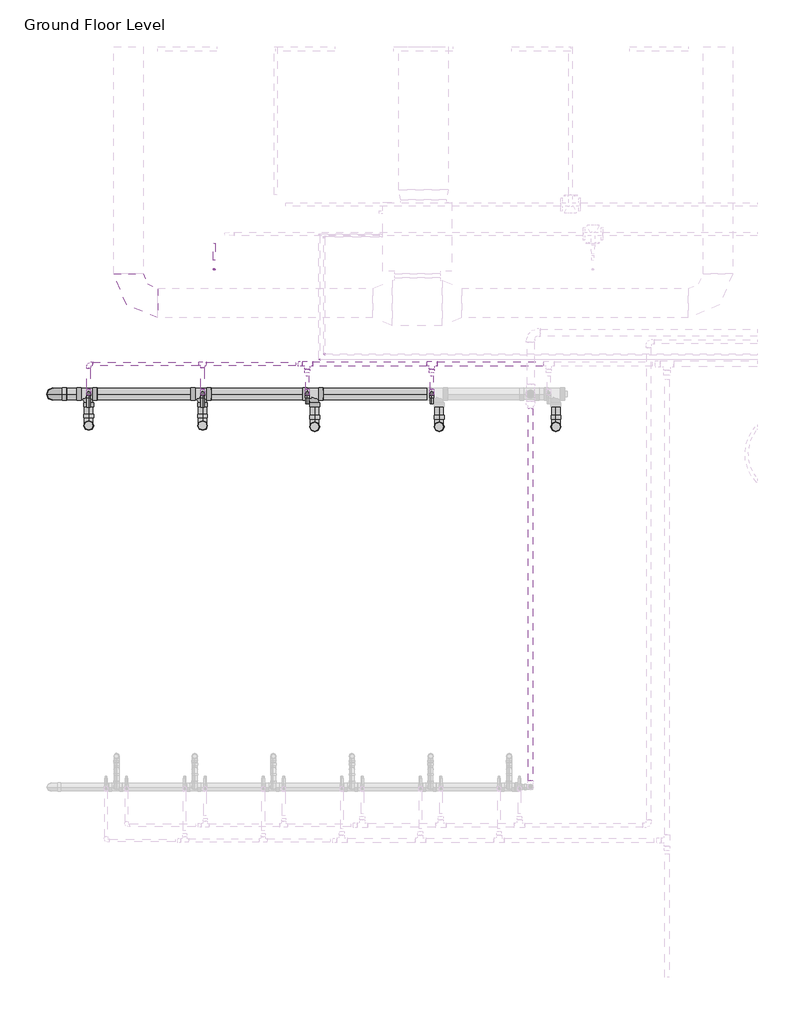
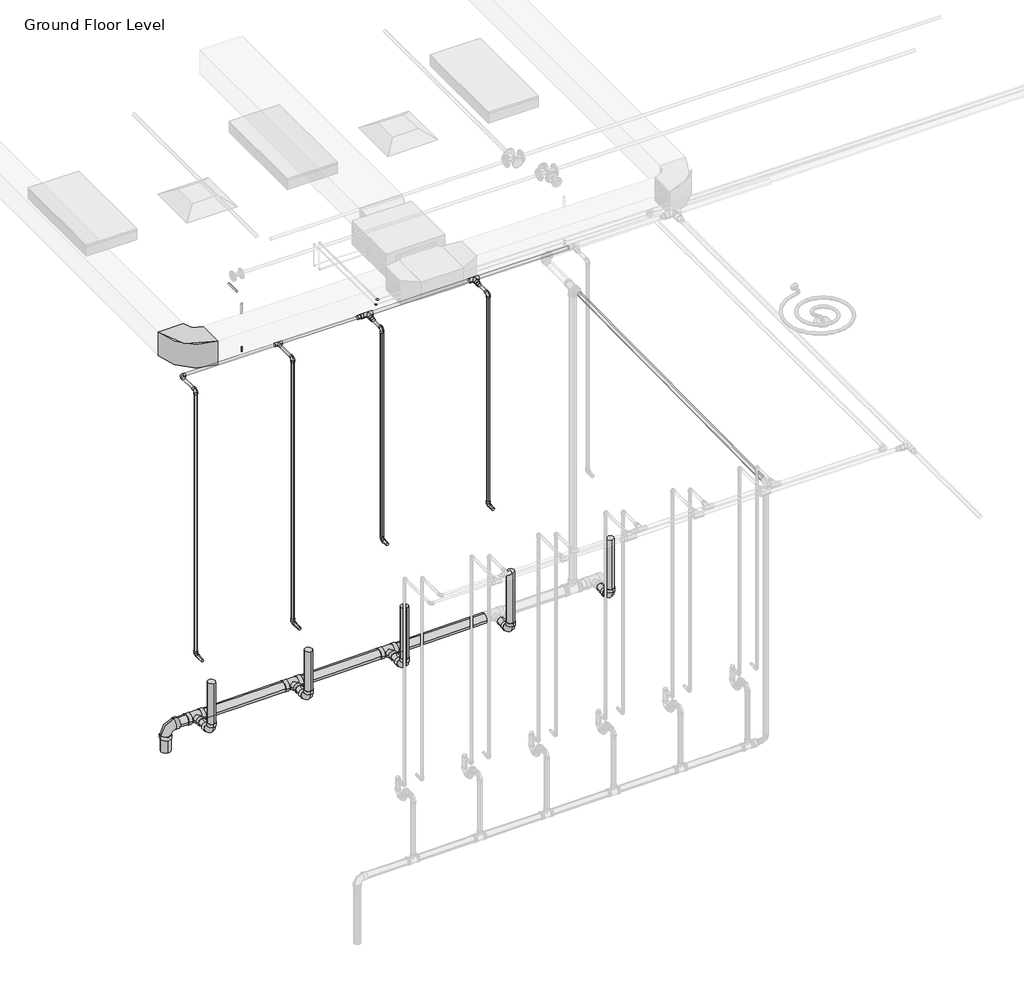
# One storey, part 43 of 75: 34 pipe segments, 26 pipe fittings, 1 duct fitting, 1 fire suppression terminal.
"""IFC4 building model written with IfcOpenShell, lengths in millimetres."""

from ifc_helpers import new_model, si_unit, point, frame, frame_2d, origin, place, context, project, spatial, circle_curve, trimmed, segment, composite_curve, outline, extrude, transform, mapped, element, save
from components import m_rectangular_elbow_radius_1_w_618da153, m_sprinkler_pendent_15_mm_pendent_06fcbd8e, m_bend_pvc_sch_40_dwv_standard_a4b99d37, m_bend_pvc_sch_40_dwv_standard_b7b4a97e, m_elbow_generic_standard_a088f956, m_elbow_generic_standard_2a704253, m_tee_reducing_sanitary_pvc_sch_40_dwv_standard_b49161a9, standard_517a5a8d, standard_ecb2b93d, standard_28db8dab, standard_72b35c3b, standard_08ff6011, standard_d0d0b892

model = new_model("IFC4")

# Units and contexts
model_context = context("Model", 3, world=origin())
ifc_project = project(units=[si_unit("LENGTHUNIT", "METRE", prefix="MILLI")], contexts=[model_context])

# Site, building, storey
site = spatial("IfcSite", under=ifc_project)
building = spatial("IfcBuilding", under=site)
storey = spatial("IfcBuildingStorey", under=building, Name="Ground Floor Level", Elevation=900.0)

# Duct fitting
placement = place(None, origin())
m_rectangular_elbow_radius_1_w_shape = m_rectangular_elbow_radius_1_w_618da153(model_context)
element("IfcDuctFitting", 1, ObjectType="M_Rectangular Elbow - Radius : 1 W", at=placement, inside=storey, context=model_context, shape_type="MappedRepresentation", body=[
    mapped(m_rectangular_elbow_radius_1_w_shape, transform((-20937.2327605, 14069.8153534, 4075.2881511), x_axis=(0.0, -1.0, 0.0), y_axis=(1.0, 0.0, 0.0), z_axis=(0.0, 0.0, 1.0))),
])

# Fire suppression terminal
m_sprinkler_pendent_15_mm_pendent_shape = m_sprinkler_pendent_15_mm_pendent_06fcbd8e(model_context)
element("IfcFireSuppressionTerminal", 2, ObjectType="M_Sprinkler - Pendent : 15 mm Pendent", at=placement, inside=storey, context=model_context, shape_type="MappedRepresentation", body=[
    mapped(m_sprinkler_pendent_15_mm_pendent_shape, transform((-20063.6803933, 14412.7243649, 3650.0), x_axis=(1.0, 0.0, 0.0), y_axis=(0.0, 1.0, 0.0), z_axis=(0.0, 0.0, 1.0))),
])

# Pipe fittings
m_bend_pvc_sch_40_dwv_standard_shape = m_bend_pvc_sch_40_dwv_standard_a4b99d37(model_context)
element("IfcPipeFitting", 3, ObjectType="M_Bend - PVC - Sch 40 - DWV : Standard", at=placement, inside=storey, context=model_context, shape_type="MappedRepresentation", body=[
    mapped(m_bend_pvc_sch_40_dwv_standard_shape, transform((-21343.0428538, 12823.8178806, 203.6352174), x_axis=(0.0, 0.0, -1.0), y_axis=(0.0, 1.0, 0.0), z_axis=(1.0, 0.0, 0.0))),
])
element("IfcPipeFitting", 4, ObjectType="M_Bend - PVC - Sch 40 - DWV : Standard", at=placement, inside=storey, context=model_context, shape_type="MappedRepresentation", body=[
    mapped(m_bend_pvc_sch_40_dwv_standard_shape, transform((-20183.0428538, 12823.8178806, 215.2352174), x_axis=(0.0, 0.0, -1.0), y_axis=(0.0, 1.0, 0.0), z_axis=(1.0, 0.0, 0.0))),
])
element("IfcPipeFitting", 5, ObjectType="M_Bend - PVC - Sch 40 - DWV : Standard", at=placement, inside=storey, context=model_context, shape_type="MappedRepresentation", body=[
    mapped(m_bend_pvc_sch_40_dwv_standard_shape, transform((-19043.0428538, 12811.6726561, 226.6352174), x_axis=(0.0, 0.0, -1.0), y_axis=(0.0, 1.0, 0.0), z_axis=(1.0, 0.0, 0.0))),
])
element("IfcPipeFitting", 6, ObjectType="M_Bend - PVC - Sch 40 - DWV : Standard", at=placement, inside=storey, context=model_context, shape_type="MappedRepresentation", body=[
    mapped(m_bend_pvc_sch_40_dwv_standard_shape, transform((-17775.8329095, 12811.6726561, 239.3073168), x_axis=(0.0, 0.0, -1.0), y_axis=(0.0, 1.0, 0.0), z_axis=(1.0, 0.0, 0.0))),
])
element("IfcPipeFitting", 7, ObjectType="M_Bend - PVC - Sch 40 - DWV : Standard", at=placement, inside=storey, context=model_context, shape_type="MappedRepresentation", body=[
    mapped(m_bend_pvc_sch_40_dwv_standard_shape, transform((-16586.4202262, 12811.6726561, 251.2014437), x_axis=(0.0, 0.0, -1.0), y_axis=(0.0, 1.0, 0.0), z_axis=(1.0, 0.0, 0.0))),
])
m_bend_pvc_sch_40_dwv_standard_2_shape = m_bend_pvc_sch_40_dwv_standard_b7b4a97e(model_context)
element("IfcPipeFitting", 8, ObjectType="M_Bend - PVC - Sch 40 - DWV : Standard", at=placement, inside=storey, context=model_context, shape_type="MappedRepresentation", body=[
    mapped(m_bend_pvc_sch_40_dwv_standard_2_shape, transform((-21707.2327605, 13143.7240477, 200.1933183), x_axis=(0.0, 0.0, 1.0), y_axis=(1.0, 0.0, 0.0), z_axis=(0.0, 1.0, 0.0))),
])
m_elbow_generic_standard_shape = m_elbow_generic_standard_a088f956(model_context)
element("IfcPipeFitting", 9, ObjectType="M_Elbow - Generic : Standard", at=placement, inside=storey, context=model_context, shape_type="MappedRepresentation", body=[
    mapped(m_elbow_generic_standard_shape, transform((-18945.3327605, 13545.2153534, 4380.0), x_axis=(0.0, -1.0, 0.0), y_axis=(1.0, 0.0, 0.0), z_axis=(0.0, 0.0, 1.0))),
])
m_elbow_generic_standard_2_shape = m_elbow_generic_standard_2a704253(model_context)
element("IfcPipeFitting", 10, ObjectType="M_Elbow - Generic : Standard", at=placement, inside=storey, context=model_context, shape_type="MappedRepresentation", body=[
    mapped(m_elbow_generic_standard_2_shape, transform((-18995.0192947, 13494.0185138, 4365.0), x_axis=(0.0, -1.0, 0.0), y_axis=(1.0, 0.0, 0.0), z_axis=(0.0, 0.0, 1.0))),
])
m_tee_reducing_sanitary_pvc_sch_40_dwv_standard_shape = m_tee_reducing_sanitary_pvc_sch_40_dwv_standard_b49161a9(model_context)
element("IfcPipeFitting", 11, ObjectType="M_Tee Reducing Sanitary - PVC - Sch 40 - DWV : Standard", at=placement, inside=storey, context=model_context, shape_type="MappedRepresentation", body=[
    mapped(m_tee_reducing_sanitary_pvc_sch_40_dwv_standard_shape, transform((-21343.0428538, 13143.7240477, 203.6352174), x_axis=(0.9999500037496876, 0.0, 0.009999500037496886), y_axis=(0.0, 1.0, 0.0), z_axis=(-0.009999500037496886, 0.0, 0.9999500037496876))),
])
element("IfcPipeFitting", 12, ObjectType="M_Tee Reducing Sanitary - PVC - Sch 40 - DWV : Standard", at=placement, inside=storey, context=model_context, shape_type="MappedRepresentation", body=[
    mapped(m_tee_reducing_sanitary_pvc_sch_40_dwv_standard_shape, transform((-20183.0428538, 13143.7240477, 215.2352174), x_axis=(0.9999500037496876, 0.0, 0.009999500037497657), y_axis=(0.0, 1.0, 0.0), z_axis=(-0.009999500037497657, 0.0, 0.9999500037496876))),
])
element("IfcPipeFitting", 13, ObjectType="M_Tee Reducing Sanitary - PVC - Sch 40 - DWV : Standard", at=placement, inside=storey, context=model_context, shape_type="MappedRepresentation", body=[
    mapped(m_tee_reducing_sanitary_pvc_sch_40_dwv_standard_shape, transform((-19043.0428538, 13143.7240477, 226.6352174), x_axis=(0.9999500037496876, 0.0, 0.009999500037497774), y_axis=(0.0, 1.0000000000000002, 0.0), z_axis=(-0.009999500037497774, 0.0, 0.9999500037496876))),
])
standard_shape = standard_517a5a8d(model_context)
element("IfcPipeFitting", 14, ObjectType="M_Elbow - CPVC - Sch 40 : Standard", at=placement, inside=storey, context=model_context, shape_type="MappedRepresentation", body=[
    mapped(standard_shape, transform((-21343.0428538, 13149.9865561, 4315.0), x_axis=(0.0, 0.0, 1.0), y_axis=(0.0, 1.0, 0.0), z_axis=(-1.0, 0.0, 0.0))),
])
element("IfcPipeFitting", 15, ObjectType="M_Elbow - CPVC - Sch 40 : Standard", at=placement, inside=storey, context=model_context, shape_type="MappedRepresentation", body=[
    mapped(standard_shape, transform((-20183.0428538, 13149.9865561, 4315.0), x_axis=(0.0, 0.0, 1.0), y_axis=(0.0, 1.0, 0.0), z_axis=(-1.0, 0.0, 0.0))),
])
element("IfcPipeFitting", 16, ObjectType="M_Elbow - CPVC - Sch 40 : Standard", at=placement, inside=storey, context=model_context, shape_type="MappedRepresentation", body=[
    mapped(standard_shape, transform((-19116.48162, 13149.9865561, 1655.0), x_axis=(0.0, 1.0, 0.0), y_axis=(0.0, 0.0, 1.0), z_axis=(1.0, 0.0, 0.0))),
])
element("IfcPipeFitting", 17, ObjectType="M_Elbow - CPVC - Sch 40 : Standard", at=placement, inside=storey, context=model_context, shape_type="MappedRepresentation", body=[
    mapped(standard_shape, transform((-19116.48162, 13149.9865561, 4315.0), x_axis=(0.0, 0.0, 1.0), y_axis=(0.0, 1.0, 0.0), z_axis=(-1.0, 0.0, 0.0))),
])
element("IfcPipeFitting", 18, ObjectType="M_Elbow - CPVC - Sch 40 : Standard", at=placement, inside=storey, context=model_context, shape_type="MappedRepresentation", body=[
    mapped(standard_shape, transform((-17849.2716757, 13149.9865561, 4315.0), x_axis=(0.0, 0.0, 1.0), y_axis=(0.0, 1.0, 0.0), z_axis=(-1.0, 0.0, 0.0))),
])
element("IfcPipeFitting", 19, ObjectType="M_Elbow - CPVC - Sch 40 : Standard", at=placement, inside=storey, context=model_context, shape_type="MappedRepresentation", body=[
    mapped(standard_shape, transform((-17849.2716757, 13149.9865561, 1655.0), x_axis=(0.0, 0.0, -1.0), y_axis=(0.0, -1.0, 0.0), z_axis=(-1.0, 0.0, 0.0))),
])
element("IfcPipeFitting", 20, ObjectType="M_Elbow - CPVC - Sch 40 : Standard", at=placement, inside=storey, context=model_context, shape_type="MappedRepresentation", body=[
    mapped(standard_shape, transform((-21343.0428538, 13449.9865561, 4315.0), x_axis=(-1.0, 0.0, 0.0), y_axis=(0.0, -1.0, 0.0), z_axis=(0.0, 0.0, 1.0))),
])
standard_2_shape = standard_ecb2b93d(model_context)
element("IfcPipeFitting", 21, ObjectType="M_Elbow - CPVC - Sch 40 : Standard", at=placement, inside=storey, context=model_context, shape_type="MappedRepresentation", body=[
    mapped(standard_2_shape, transform((-21343.0428538, 13149.9865561, 983.5000035), x_axis=(0.0, 0.9999999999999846, 1.7577295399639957e-07), y_axis=(0.0, -1.7577295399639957e-07, 0.9999999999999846), z_axis=(1.0, 0.0, 0.0))),
])
standard_3_shape = standard_28db8dab(model_context)
element("IfcPipeFitting", 22, ObjectType="M_Elbow - CPVC - Sch 40 : Standard", at=placement, inside=storey, context=model_context, shape_type="MappedRepresentation", body=[
    mapped(standard_3_shape, transform((-20183.0428538, 13149.9865561, 983.4999984), x_axis=(0.0, 0.0, -1.0), y_axis=(0.0, -1.0, 0.0), z_axis=(-1.0, 0.0, 0.0))),
])
standard_4_shape = standard_72b35c3b(model_context)
element("IfcPipeFitting", 23, ObjectType="M_Tee - CPVC - Sch 40 : Standard", at=placement, inside=storey, context=model_context, shape_type="MappedRepresentation", body=[
    mapped(standard_4_shape, transform((-20183.0428538, 13449.9865561, 4315.0), x_axis=(-1.0, 0.0, 0.0), y_axis=(0.0, 1.0, 0.0), z_axis=(0.0, 0.0, -1.0))),
])
standard_5_shape = standard_08ff6011(model_context)
element("IfcPipeFitting", 24, ObjectType="M_Tee - CPVC - Sch 40 : Standard", at=placement, inside=storey, context=model_context, shape_type="MappedRepresentation", body=[
    mapped(standard_5_shape, transform((-19116.48162, 13449.9865561, 4315.0), x_axis=(-1.0, 0.0, 0.0), y_axis=(0.0, 1.0, 0.0), z_axis=(0.0, 0.0, -1.0))),
])
element("IfcPipeFitting", 25, ObjectType="M_Tee - CPVC - Sch 40 : Standard", at=placement, inside=storey, context=model_context, shape_type="MappedRepresentation", body=[
    mapped(standard_5_shape, transform((-17849.2716757, 13449.9865561, 4315.0), x_axis=(-1.0, 0.0, 0.0), y_axis=(0.0, 1.0, 0.0), z_axis=(0.0, 0.0, -1.0))),
])
standard_6_shape = standard_d0d0b892(model_context)
element("IfcPipeFitting", 26, ObjectType="M_Coupling Reducing - CPVC - Sch 40 : Standard", at=placement, inside=storey, context=model_context, shape_type="MappedRepresentation", body=[
    mapped(standard_6_shape, transform((-19116.48162, 13396.0115561, 4315.0), x_axis=(0.0, -1.0, 0.0), y_axis=(1.0, 0.0, 0.0), z_axis=(0.0, 0.0, 1.0))),
])
element("IfcPipeFitting", 27, ObjectType="M_Coupling Reducing - CPVC - Sch 40 : Standard", at=placement, inside=storey, context=model_context, shape_type="MappedRepresentation", body=[
    mapped(standard_6_shape, transform((-17849.2716757, 13396.0115561, 4315.0), x_axis=(0.0, -1.0, 0.0), y_axis=(1.0, 0.0, 0.0), z_axis=(0.0, 0.0, 1.0))),
])
element("IfcPipeFitting", 28, ObjectType="M_Coupling Reducing - CPVC - Sch 40 : Standard", at=placement, inside=storey, context=model_context, shape_type="MappedRepresentation", body=[
    mapped(standard_6_shape, transform((-19170.45662, 13449.9865561, 4315.0), x_axis=(-1.0, 0.0, 0.0), y_axis=(0.0, -1.0, 0.0), z_axis=(0.0, 0.0, 1.0))),
])

# Pipe segments
element("IfcPipeSegment", 29, ObjectType="CPVC", at=placement, inside=storey, context=model_context, shape_type="SweptSolid", body=[
    extrude(outline(composite_curve([segment(trimmed(circle_curve(frame_2d((983.4999789, -21343.0428538)), 16.7005), [point((983.4999789, -21326.3423538))], [point((1000.2004789, -21343.0428538))], False, "CARTESIAN"), True, "CONTINUOUS"), segment(trimmed(circle_curve(frame_2d((983.4999789, -21343.0428538)), 16.7005), [point((1000.2004789, -21343.0428538))], [point((983.4999789, -21359.7433538))], False, "CARTESIAN"), True, "CONTINUOUS"), segment(trimmed(circle_curve(frame_2d((983.4999789, -21343.0428538)), 16.7005), [point((983.4999789, -21359.7433538))], [point((966.7994789, -21343.0428538))], False, "CARTESIAN"), True, "CONTINUOUS"), segment(trimmed(circle_curve(frame_2d((983.4999789, -21343.0428538)), 16.7005), [point((966.7994789, -21343.0428538))], [point((983.4999789, -21326.3423538))], False, "CARTESIAN"), True, "CONTINUOUS")], self_intersect=False)), frame((0.0, 13009.9865561, 0.0), z_axis=(0.0, 1.0, 0.0), x_axis=(0.0, 0.0, 1.0)), (0.0, 0.0, 1.0), 96.7374537),
])
element("IfcPipeSegment", 30, ObjectType="CPVC", at=placement, inside=storey, context=model_context, shape_type="SweptSolid", body=[
    extrude(outline(composite_curve([segment(trimmed(circle_curve(frame_2d((4315.0, -21343.0428538)), 16.7005), [point((4315.0, -21326.3423538))], [point((4331.7005, -21343.0428538))], False, "CARTESIAN"), True, "CONTINUOUS"), segment(trimmed(circle_curve(frame_2d((4315.0, -21343.0428538)), 16.7005), [point((4331.7005, -21343.0428538))], [point((4315.0, -21359.7433538))], False, "CARTESIAN"), True, "CONTINUOUS"), segment(trimmed(circle_curve(frame_2d((4315.0, -21343.0428538)), 16.7005), [point((4315.0, -21359.7433538))], [point((4298.2995, -21343.0428538))], False, "CARTESIAN"), True, "CONTINUOUS"), segment(trimmed(circle_curve(frame_2d((4315.0, -21343.0428538)), 16.7005), [point((4298.2995, -21343.0428538))], [point((4315.0, -21326.3423538))], False, "CARTESIAN"), True, "CONTINUOUS")], self_intersect=False)), frame((0.0, 13193.2491061, 0.0), z_axis=(0.0, 1.0, 0.0), x_axis=(0.0, 0.0, 1.0)), (0.0, 0.0, 1.0), 213.4749),
])
element("IfcPipeSegment", 31, ObjectType="CPVC", at=placement, inside=storey, context=model_context, shape_type="SweptSolid", body=[
    extrude(outline(composite_curve([segment(trimmed(circle_curve(frame_2d((-21343.0428538, 13149.9865561)), 16.7005), [point((-21359.7433538, 13149.9865561))], [point((-21343.0428538, 13166.6870561))], False, "CARTESIAN"), True, "CONTINUOUS"), segment(trimmed(circle_curve(frame_2d((-21343.0428538, 13149.9865561)), 16.7005), [point((-21343.0428538, 13166.6870561))], [point((-21326.3423538, 13149.9865561))], False, "CARTESIAN"), True, "CONTINUOUS"), segment(trimmed(circle_curve(frame_2d((-21343.0428538, 13149.9865561)), 16.7005), [point((-21326.3423538, 13149.9865561))], [point((-21343.0428538, 13133.2860561))], False, "CARTESIAN"), True, "CONTINUOUS"), segment(trimmed(circle_curve(frame_2d((-21343.0428538, 13149.9865561)), 16.7005), [point((-21343.0428538, 13133.2860561))], [point((-21359.7433538, 13149.9865561))], False, "CARTESIAN"), True, "CONTINUOUS")], self_intersect=False)), frame((0.0, 0.0, 1026.7625498), z_axis=(0.0, 0.0, 1.0), x_axis=(1.0, 0.0, 0.0)), (0.0, 0.0, 1.0), 3244.9749002),
])
element("IfcPipeSegment", 32, ObjectType="CPVC", at=placement, inside=storey, context=model_context, shape_type="SweptSolid", body=[
    extrude(outline(composite_curve([segment(trimmed(circle_curve(frame_2d((983.4999924, -20183.0428538)), 16.7005), [point((983.4999924, -20199.7433538))], [point((966.7994924, -20183.0428538))], False, "CARTESIAN"), True, "CONTINUOUS"), segment(trimmed(circle_curve(frame_2d((983.4999924, -20183.0428538)), 16.7005), [point((966.7994924, -20183.0428538))], [point((983.4999924, -20166.3423538))], False, "CARTESIAN"), True, "CONTINUOUS"), segment(trimmed(circle_curve(frame_2d((983.4999924, -20183.0428538)), 16.7005), [point((983.4999924, -20166.3423538))], [point((1000.2004924, -20183.0428538))], False, "CARTESIAN"), True, "CONTINUOUS"), segment(trimmed(circle_curve(frame_2d((983.4999924, -20183.0428538)), 16.7005), [point((1000.2004924, -20183.0428538))], [point((983.4999924, -20199.7433538))], False, "CARTESIAN"), True, "CONTINUOUS")], self_intersect=False)), frame((0.0, 13009.9865561, 0.0), z_axis=(0.0, 1.0, 0.0), x_axis=(0.0, 0.0, 1.0)), (0.0, 0.0, 1.0), 96.7374529),
])
element("IfcPipeSegment", 33, ObjectType="CPVC", at=placement, inside=storey, context=model_context, shape_type="SweptSolid", body=[
    extrude(outline(composite_curve([segment(trimmed(circle_curve(frame_2d((-20183.0428538, 13149.9865561)), 16.7005), [point((-20199.7433538, 13149.9865561))], [point((-20183.0428538, 13166.6870561))], False, "CARTESIAN"), True, "CONTINUOUS"), segment(trimmed(circle_curve(frame_2d((-20183.0428538, 13149.9865561)), 16.7005), [point((-20183.0428538, 13166.6870561))], [point((-20166.3423538, 13149.9865561))], False, "CARTESIAN"), True, "CONTINUOUS"), segment(trimmed(circle_curve(frame_2d((-20183.0428538, 13149.9865561)), 16.7005), [point((-20166.3423538, 13149.9865561))], [point((-20183.0428538, 13133.2860561))], False, "CARTESIAN"), True, "CONTINUOUS"), segment(trimmed(circle_curve(frame_2d((-20183.0428538, 13149.9865561)), 16.7005), [point((-20183.0428538, 13133.2860561))], [point((-20199.7433538, 13149.9865561))], False, "CARTESIAN"), True, "CONTINUOUS")], self_intersect=False)), frame((0.0, 0.0, 1026.7625455), z_axis=(0.0, 0.0, 1.0), x_axis=(1.0, 0.0, 0.0)), (0.0, 0.0, 1.0), 3244.9749045),
])
element("IfcPipeSegment", 34, ObjectType="CPVC", at=placement, inside=storey, context=model_context, shape_type="SweptSolid", body=[
    extrude(outline(composite_curve([segment(trimmed(circle_curve(frame_2d((1655.0, -19116.48162)), 16.7005), [point((1655.0, -19099.78112))], [point((1671.7005, -19116.48162))], False, "CARTESIAN"), True, "CONTINUOUS"), segment(trimmed(circle_curve(frame_2d((1655.0, -19116.48162)), 16.7005), [point((1671.7005, -19116.48162))], [point((1655.0, -19133.18212))], False, "CARTESIAN"), True, "CONTINUOUS"), segment(trimmed(circle_curve(frame_2d((1655.0, -19116.48162)), 16.7005), [point((1655.0, -19133.18212))], [point((1638.2995, -19116.48162))], False, "CARTESIAN"), True, "CONTINUOUS"), segment(trimmed(circle_curve(frame_2d((1655.0, -19116.48162)), 16.7005), [point((1638.2995, -19116.48162))], [point((1655.0, -19099.78112))], False, "CARTESIAN"), True, "CONTINUOUS")], self_intersect=False)), frame((0.0, 13045.2153534, 0.0), z_axis=(0.0, 1.0, 0.0), x_axis=(0.0, 0.0, 1.0)), (0.0, 0.0, 1.0), 61.5086528),
])
element("IfcPipeSegment", 35, ObjectType="CPVC", at=placement, inside=storey, context=model_context, shape_type="SweptSolid", body=[
    extrude(outline(composite_curve([segment(trimmed(circle_curve(frame_2d((-19116.48162, 13149.9865561)), 16.7005), [point((-19133.18212, 13149.9865561))], [point((-19116.48162, 13166.6870561))], False, "CARTESIAN"), True, "CONTINUOUS"), segment(trimmed(circle_curve(frame_2d((-19116.48162, 13149.9865561)), 16.7005), [point((-19116.48162, 13166.6870561))], [point((-19099.78112, 13149.9865561))], False, "CARTESIAN"), True, "CONTINUOUS"), segment(trimmed(circle_curve(frame_2d((-19116.48162, 13149.9865561)), 16.7005), [point((-19099.78112, 13149.9865561))], [point((-19116.48162, 13133.2860561))], False, "CARTESIAN"), True, "CONTINUOUS"), segment(trimmed(circle_curve(frame_2d((-19116.48162, 13149.9865561)), 16.7005), [point((-19116.48162, 13133.2860561))], [point((-19133.18212, 13149.9865561))], False, "CARTESIAN"), True, "CONTINUOUS")], self_intersect=False)), frame((0.0, 0.0, 1698.26255), z_axis=(0.0, 0.0, 1.0), x_axis=(1.0, 0.0, 0.0)), (0.0, 0.0, 1.0), 2573.4749),
])
element("IfcPipeSegment", 36, ObjectType="CPVC", at=placement, inside=storey, context=model_context, shape_type="SweptSolid", body=[
    extrude(outline(composite_curve([segment(trimmed(circle_curve(frame_2d((1655.0, -17849.2716757)), 16.7005), [point((1655.0, -17865.9721757))], [point((1638.2995, -17849.2716757))], False, "CARTESIAN"), True, "CONTINUOUS"), segment(trimmed(circle_curve(frame_2d((1655.0, -17849.2716757)), 16.7005), [point((1638.2995, -17849.2716757))], [point((1655.0, -17832.5711757))], False, "CARTESIAN"), True, "CONTINUOUS"), segment(trimmed(circle_curve(frame_2d((1655.0, -17849.2716757)), 16.7005), [point((1655.0, -17832.5711757))], [point((1671.7005, -17849.2716757))], False, "CARTESIAN"), True, "CONTINUOUS"), segment(trimmed(circle_curve(frame_2d((1655.0, -17849.2716757)), 16.7005), [point((1671.7005, -17849.2716757))], [point((1655.0, -17865.9721757))], False, "CARTESIAN"), True, "CONTINUOUS")], self_intersect=False)), frame((0.0, 13045.2153534, 0.0), z_axis=(0.0, 1.0, 0.0), x_axis=(0.0, 0.0, 1.0)), (0.0, 0.0, 1.0), 61.5086528),
])
element("IfcPipeSegment", 37, ObjectType="CPVC", at=placement, inside=storey, context=model_context, shape_type="SweptSolid", body=[
    extrude(outline(composite_curve([segment(trimmed(circle_curve(frame_2d((-17849.2716757, 13149.9865561)), 16.7005), [point((-17865.9721757, 13149.9865561))], [point((-17849.2716757, 13166.6870561))], False, "CARTESIAN"), True, "CONTINUOUS"), segment(trimmed(circle_curve(frame_2d((-17849.2716757, 13149.9865561)), 16.7005), [point((-17849.2716757, 13166.6870561))], [point((-17832.5711757, 13149.9865561))], False, "CARTESIAN"), True, "CONTINUOUS"), segment(trimmed(circle_curve(frame_2d((-17849.2716757, 13149.9865561)), 16.7005), [point((-17832.5711757, 13149.9865561))], [point((-17849.2716757, 13133.2860561))], False, "CARTESIAN"), True, "CONTINUOUS"), segment(trimmed(circle_curve(frame_2d((-17849.2716757, 13149.9865561)), 16.7005), [point((-17849.2716757, 13133.2860561))], [point((-17865.9721757, 13149.9865561))], False, "CARTESIAN"), True, "CONTINUOUS")], self_intersect=False)), frame((0.0, 0.0, 1698.26255), z_axis=(0.0, 0.0, 1.0), x_axis=(1.0, 0.0, 0.0)), (0.0, 0.0, 1.0), 2573.4749),
])
element("IfcPipeSegment", 38, ObjectType="CPVC", at=placement, inside=storey, context=model_context, shape_type="SweptSolid", body=[
    extrude(outline(composite_curve([segment(trimmed(circle_curve(frame_2d((13449.9865561, 4315.0)), 16.7005), [point((13433.2860561, 4315.0))], [point((13449.9865561, 4331.7005))], False, "CARTESIAN"), True, "CONTINUOUS"), segment(trimmed(circle_curve(frame_2d((13449.9865561, 4315.0)), 16.7005), [point((13449.9865561, 4331.7005))], [point((13466.6870561, 4315.0))], False, "CARTESIAN"), True, "CONTINUOUS"), segment(trimmed(circle_curve(frame_2d((13449.9865561, 4315.0)), 16.7005), [point((13466.6870561, 4315.0))], [point((13449.9865561, 4298.2995))], False, "CARTESIAN"), True, "CONTINUOUS"), segment(trimmed(circle_curve(frame_2d((13449.9865561, 4315.0)), 16.7005), [point((13449.9865561, 4298.2995))], [point((13433.2860561, 4315.0))], False, "CARTESIAN"), True, "CONTINUOUS")], self_intersect=False)), frame((-21299.7803038, 0.0, 0.0), z_axis=(1.0, 0.0, 0.0), x_axis=(0.0, 1.0, 0.0)), (0.0, 0.0, 1.0), 1077.03725),
])
element("IfcPipeSegment", 39, ObjectType="CPVC", at=placement, inside=storey, context=model_context, shape_type="SweptSolid", body=[
    extrude(outline(composite_curve([segment(trimmed(circle_curve(frame_2d((4315.0, -20183.0428538)), 16.7005), [point((4315.0, -20166.3423538))], [point((4331.7005, -20183.0428538))], False, "CARTESIAN"), True, "CONTINUOUS"), segment(trimmed(circle_curve(frame_2d((4315.0, -20183.0428538)), 16.7005), [point((4331.7005, -20183.0428538))], [point((4315.0, -20199.7433538))], False, "CARTESIAN"), True, "CONTINUOUS"), segment(trimmed(circle_curve(frame_2d((4315.0, -20183.0428538)), 16.7005), [point((4315.0, -20199.7433538))], [point((4298.2995, -20183.0428538))], False, "CARTESIAN"), True, "CONTINUOUS"), segment(trimmed(circle_curve(frame_2d((4315.0, -20183.0428538)), 16.7005), [point((4298.2995, -20183.0428538))], [point((4315.0, -20166.3423538))], False, "CARTESIAN"), True, "CONTINUOUS")], self_intersect=False)), frame((0.0, 13193.2491061, 0.0), z_axis=(0.0, 1.0, 0.0), x_axis=(0.0, 0.0, 1.0)), (0.0, 0.0, 1.0), 217.03725),
])
element("IfcPipeSegment", 40, ObjectType="CPVC", at=placement, inside=storey, context=model_context, shape_type="SweptSolid", body=[
    extrude(outline(composite_curve([segment(trimmed(circle_curve(frame_2d((13449.9865561, 4315.0)), 16.7005), [point((13433.2860561, 4315.0))], [point((13449.9865561, 4331.7005))], False, "CARTESIAN"), True, "CONTINUOUS"), segment(trimmed(circle_curve(frame_2d((13449.9865561, 4315.0)), 16.7005), [point((13449.9865561, 4331.7005))], [point((13466.6870561, 4315.0))], False, "CARTESIAN"), True, "CONTINUOUS"), segment(trimmed(circle_curve(frame_2d((13449.9865561, 4315.0)), 16.7005), [point((13466.6870561, 4315.0))], [point((13449.9865561, 4298.2995))], False, "CARTESIAN"), True, "CONTINUOUS"), segment(trimmed(circle_curve(frame_2d((13449.9865561, 4315.0)), 16.7005), [point((13449.9865561, 4298.2995))], [point((13433.2860561, 4315.0))], False, "CARTESIAN"), True, "CONTINUOUS")], self_intersect=False)), frame((-20143.3426538, 0.0, 0.0), z_axis=(1.0, 0.0, 0.0), x_axis=(0.0, 1.0, 0.0)), (0.0, 0.0, 1.0), 906.7671588),
])
element("IfcPipeSegment", 41, ObjectType="CPVC", at=placement, inside=storey, context=model_context, shape_type="SweptSolid", body=[
    extrude(outline(composite_curve([segment(trimmed(circle_curve(frame_2d((4315.0, -19116.48162)), 16.7005), [point((4315.0, -19099.78112))], [point((4331.7005, -19116.48162))], False, "CARTESIAN"), True, "CONTINUOUS"), segment(trimmed(circle_curve(frame_2d((4315.0, -19116.48162)), 16.7005), [point((4331.7005, -19116.48162))], [point((4315.0, -19133.18212))], False, "CARTESIAN"), True, "CONTINUOUS"), segment(trimmed(circle_curve(frame_2d((4315.0, -19116.48162)), 16.7005), [point((4315.0, -19133.18212))], [point((4298.2995, -19116.48162))], False, "CARTESIAN"), True, "CONTINUOUS"), segment(trimmed(circle_curve(frame_2d((4315.0, -19116.48162)), 16.7005), [point((4298.2995, -19116.48162))], [point((4315.0, -19099.78112))], False, "CARTESIAN"), True, "CONTINUOUS")], self_intersect=False)), frame((0.0, 13193.2491061, 0.0), z_axis=(0.0, 1.0, 0.0), x_axis=(0.0, 0.0, 1.0)), (0.0, 0.0, 1.0), 136.643575),
])
element("IfcPipeSegment", 42, ObjectType="CPVC", at=placement, inside=storey, context=model_context, shape_type="SweptSolid", body=[
    extrude(outline(composite_curve([segment(trimmed(circle_curve(frame_2d((13449.9865561, 4315.0)), 21.082), [point((13428.9045561, 4315.0))], [point((13449.9865561, 4336.082))], False, "CARTESIAN"), True, "CONTINUOUS"), segment(trimmed(circle_curve(frame_2d((13449.9865561, 4315.0)), 21.082), [point((13449.9865561, 4336.082))], [point((13471.0685561, 4315.0))], False, "CARTESIAN"), True, "CONTINUOUS"), segment(trimmed(circle_curve(frame_2d((13449.9865561, 4315.0)), 21.082), [point((13471.0685561, 4315.0))], [point((13449.9865561, 4293.918))], False, "CARTESIAN"), True, "CONTINUOUS"), segment(trimmed(circle_curve(frame_2d((13449.9865561, 4315.0)), 21.082), [point((13449.9865561, 4293.918))], [point((13428.9045561, 4315.0))], False, "CARTESIAN"), True, "CONTINUOUS")], self_intersect=False)), frame((-19062.50662, 0.0, 0.0), z_axis=(1.0, 0.0, 0.0), x_axis=(0.0, 1.0, 0.0)), (0.0, 0.0, 1.0), 1159.2599443),
])
element("IfcPipeSegment", 43, ObjectType="CPVC", at=placement, inside=storey, context=model_context, shape_type="SweptSolid", body=[
    extrude(outline(composite_curve([segment(trimmed(circle_curve(frame_2d((4315.0, -17849.2716757)), 16.7005), [point((4315.0, -17832.5711757))], [point((4331.7005, -17849.2716757))], False, "CARTESIAN"), True, "CONTINUOUS"), segment(trimmed(circle_curve(frame_2d((4315.0, -17849.2716757)), 16.7005), [point((4331.7005, -17849.2716757))], [point((4315.0, -17865.9721757))], False, "CARTESIAN"), True, "CONTINUOUS"), segment(trimmed(circle_curve(frame_2d((4315.0, -17849.2716757)), 16.7005), [point((4315.0, -17865.9721757))], [point((4298.2995, -17849.2716757))], False, "CARTESIAN"), True, "CONTINUOUS"), segment(trimmed(circle_curve(frame_2d((4315.0, -17849.2716757)), 16.7005), [point((4298.2995, -17849.2716757))], [point((4315.0, -17832.5711757))], False, "CARTESIAN"), True, "CONTINUOUS")], self_intersect=False)), frame((0.0, 13193.2491061, 0.0), z_axis=(0.0, 1.0, 0.0), x_axis=(0.0, 0.0, 1.0)), (0.0, 0.0, 1.0), 136.643575),
])
element("IfcPipeSegment", 44, ObjectType="CPVC", at=placement, inside=storey, context=model_context, shape_type="SweptSolid", body=[
    extrude(outline(composite_curve([segment(trimmed(circle_curve(frame_2d((13449.9865561, 4315.0)), 21.082), [point((13428.9045561, 4315.0))], [point((13449.9865561, 4336.082))], False, "CARTESIAN"), True, "CONTINUOUS"), segment(trimmed(circle_curve(frame_2d((13449.9865561, 4315.0)), 21.082), [point((13449.9865561, 4336.082))], [point((13471.0685561, 4315.0))], False, "CARTESIAN"), True, "CONTINUOUS"), segment(trimmed(circle_curve(frame_2d((13449.9865561, 4315.0)), 21.082), [point((13471.0685561, 4315.0))], [point((13449.9865561, 4293.918))], False, "CARTESIAN"), True, "CONTINUOUS"), segment(trimmed(circle_curve(frame_2d((13449.9865561, 4315.0)), 21.082), [point((13449.9865561, 4293.918))], [point((13428.9045561, 4315.0))], False, "CARTESIAN"), True, "CONTINUOUS")], self_intersect=False)), frame((-17795.2966757, 0.0, 0.0), z_axis=(1.0, 0.0, 0.0), x_axis=(0.0, 1.0, 0.0)), (0.0, 0.0, 1.0), 1081.4626833),
])
element("IfcPipeSegment", 45, ObjectType="PVC - DWV", at=placement, inside=storey, context=model_context, shape_type="SweptSolid", body=[
    extrude(outline(composite_curve([segment(trimmed(circle_curve(frame_2d((-21343.0428538, 12823.8178806)), 44.45), [point((-21298.5928538, 12823.8178806))], [point((-21343.0428538, 12779.3678806))], False, "CARTESIAN"), True, "CONTINUOUS"), segment(trimmed(circle_curve(frame_2d((-21343.0428538, 12823.8178806)), 44.45), [point((-21343.0428538, 12779.3678806))], [point((-21387.4928538, 12823.8178806))], False, "CARTESIAN"), True, "CONTINUOUS"), segment(trimmed(circle_curve(frame_2d((-21343.0428538, 12823.8178806)), 44.45), [point((-21387.4928538, 12823.8178806))], [point((-21343.0428538, 12868.2678806))], False, "CARTESIAN"), True, "CONTINUOUS"), segment(trimmed(circle_curve(frame_2d((-21343.0428538, 12823.8178806)), 44.45), [point((-21343.0428538, 12868.2678806))], [point((-21298.5928538, 12823.8178806))], False, "CARTESIAN"), True, "CONTINUOUS")], self_intersect=False)), frame((0.0, 0.0, 319.5354174), z_axis=(0.0, 0.0, 1.0), x_axis=(1.0, 0.0, 0.0)), (0.0, 0.0, 1.0), 511.1329592),
])
element("IfcPipeSegment", 46, ObjectType="PVC - DWV", at=placement, inside=storey, context=model_context, shape_type="SweptSolid", body=[
    extrude(outline(composite_curve([segment(trimmed(circle_curve(frame_2d((203.6352174, -21343.0428538)), 44.45), [point((203.6352174, -21298.5928538))], [point((248.0852174, -21343.0428538))], False, "CARTESIAN"), True, "CONTINUOUS"), segment(trimmed(circle_curve(frame_2d((203.6352174, -21343.0428538)), 44.45), [point((248.0852174, -21343.0428538))], [point((203.6352174, -21387.4928538))], False, "CARTESIAN"), True, "CONTINUOUS"), segment(trimmed(circle_curve(frame_2d((203.6352174, -21343.0428538)), 44.45), [point((203.6352174, -21387.4928538))], [point((159.1852174, -21343.0428538))], False, "CARTESIAN"), True, "CONTINUOUS"), segment(trimmed(circle_curve(frame_2d((203.6352174, -21343.0428538)), 44.45), [point((159.1852174, -21343.0428538))], [point((203.6352174, -21298.5928538))], False, "CARTESIAN"), True, "CONTINUOUS")], self_intersect=False)), frame((0.0, 12939.7180806, 0.0), z_axis=(0.0, 1.0, 0.0), x_axis=(0.0, 0.0, 1.0)), (0.0, 0.0, 1.0), 75.4057671),
])
element("IfcPipeSegment", 47, ObjectType="PVC - DWV", at=placement, inside=storey, context=model_context, shape_type="SweptSolid", body=[
    extrude(outline(composite_curve([segment(trimmed(circle_curve(frame_2d((0.0, -57.15)), 57.15), [point((0.0, 0.0))], [point((57.15, -57.15))], False, "CARTESIAN"), True, "CONTINUOUS"), segment(trimmed(circle_curve(frame_2d((0.0, -57.15)), 57.15), [point((57.15, -57.15))], [point((0.0, -114.3))], False, "CARTESIAN"), True, "CONTINUOUS"), segment(trimmed(circle_curve(frame_2d((0.0, -57.15)), 57.15), [point((0.0, -114.3))], [point((-57.15, -57.15))], False, "CARTESIAN"), True, "CONTINUOUS"), segment(trimmed(circle_curve(frame_2d((0.0, -57.15)), 57.15), [point((-57.15, -57.15))], [point((0.0, 0.0))], False, "CARTESIAN"), True, "CONTINUOUS")], self_intersect=False)), frame((-21564.3649037, 13200.8740477, 201.6219969), z_axis=(0.9999500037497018, 0.0, 0.00999950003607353), x_axis=(0.00999950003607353, 0.0, -0.9999500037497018)), (0.0, 0.0, 1.0), 100.6811159),
])
element("IfcPipeSegment", 48, ObjectType="PVC - DWV", at=placement, inside=storey, context=model_context, shape_type="SweptSolid", body=[
    extrude(outline(composite_curve([segment(trimmed(circle_curve(frame_2d((-20183.0428538, 12823.8178806)), 44.45), [point((-20138.5928538, 12823.8178806))], [point((-20183.0428538, 12779.3678806))], False, "CARTESIAN"), True, "CONTINUOUS"), segment(trimmed(circle_curve(frame_2d((-20183.0428538, 12823.8178806)), 44.45), [point((-20183.0428538, 12779.3678806))], [point((-20227.4928538, 12823.8178806))], False, "CARTESIAN"), True, "CONTINUOUS"), segment(trimmed(circle_curve(frame_2d((-20183.0428538, 12823.8178806)), 44.45), [point((-20227.4928538, 12823.8178806))], [point((-20183.0428538, 12868.2678806))], False, "CARTESIAN"), True, "CONTINUOUS"), segment(trimmed(circle_curve(frame_2d((-20183.0428538, 12823.8178806)), 44.45), [point((-20183.0428538, 12868.2678806))], [point((-20138.5928538, 12823.8178806))], False, "CARTESIAN"), True, "CONTINUOUS")], self_intersect=False)), frame((0.0, 0.0, 331.1354174), z_axis=(0.0, 0.0, 1.0), x_axis=(1.0, 0.0, 0.0)), (0.0, 0.0, 1.0), 499.5329592),
])
element("IfcPipeSegment", 49, ObjectType="PVC - DWV", at=placement, inside=storey, context=model_context, shape_type="SweptSolid", body=[
    extrude(outline(composite_curve([segment(trimmed(circle_curve(frame_2d((215.2352174, -20183.0428538)), 44.45), [point((215.2352174, -20138.5928538))], [point((259.6852174, -20183.0428538))], False, "CARTESIAN"), True, "CONTINUOUS"), segment(trimmed(circle_curve(frame_2d((215.2352174, -20183.0428538)), 44.45), [point((259.6852174, -20183.0428538))], [point((215.2352174, -20227.4928538))], False, "CARTESIAN"), True, "CONTINUOUS"), segment(trimmed(circle_curve(frame_2d((215.2352174, -20183.0428538)), 44.45), [point((215.2352174, -20227.4928538))], [point((170.7852174, -20183.0428538))], False, "CARTESIAN"), True, "CONTINUOUS"), segment(trimmed(circle_curve(frame_2d((215.2352174, -20183.0428538)), 44.45), [point((170.7852174, -20183.0428538))], [point((215.2352174, -20138.5928538))], False, "CARTESIAN"), True, "CONTINUOUS")], self_intersect=False)), frame((0.0, 12939.7180806, 0.0), z_axis=(0.0, 1.0, 0.0), x_axis=(0.0, 0.0, 1.0)), (0.0, 0.0, 1.0), 75.4057671),
])
element("IfcPipeSegment", 50, ObjectType="PVC - DWV", at=placement, inside=storey, context=model_context, shape_type="SweptSolid", body=[
    extrude(outline(composite_curve([segment(trimmed(circle_curve(frame_2d((0.0, -57.15)), 57.15), [point((0.0, 0.0))], [point((57.1500001, -57.15))], False, "CARTESIAN"), True, "CONTINUOUS"), segment(trimmed(circle_curve(frame_2d((0.0, -57.15)), 57.15), [point((57.1500001, -57.15))], [point((0.0, -114.3))], False, "CARTESIAN"), True, "CONTINUOUS"), segment(trimmed(circle_curve(frame_2d((0.0, -57.15)), 57.15), [point((0.0, -114.3))], [point((-57.15, -57.15))], False, "CARTESIAN"), True, "CONTINUOUS"), segment(trimmed(circle_curve(frame_2d((0.0, -57.15)), 57.15), [point((-57.15, -57.15))], [point((0.0, 0.0))], False, "CARTESIAN"), True, "CONTINUOUS")], self_intersect=False)), frame((-21254.1472985, 13200.8740477, 204.524173), z_axis=(0.9999500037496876, 0.0, 0.009999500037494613), x_axis=(0.009999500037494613, 0.0, -0.9999500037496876)), (0.0, 0.0, 1.0), 950.5079986),
])
element("IfcPipeSegment", 51, ObjectType="PVC - DWV", at=placement, inside=storey, context=model_context, shape_type="SweptSolid", body=[
    extrude(outline(composite_curve([segment(trimmed(circle_curve(frame_2d((-19043.0428538, 12811.6726561)), 44.45), [point((-18998.5928538, 12811.6726561))], [point((-19043.0428538, 12767.2226561))], False, "CARTESIAN"), True, "CONTINUOUS"), segment(trimmed(circle_curve(frame_2d((-19043.0428538, 12811.6726561)), 44.45), [point((-19043.0428538, 12767.2226561))], [point((-19087.4928538, 12811.6726561))], False, "CARTESIAN"), True, "CONTINUOUS"), segment(trimmed(circle_curve(frame_2d((-19043.0428538, 12811.6726561)), 44.45), [point((-19087.4928538, 12811.6726561))], [point((-19043.0428538, 12856.1226561))], False, "CARTESIAN"), True, "CONTINUOUS"), segment(trimmed(circle_curve(frame_2d((-19043.0428538, 12811.6726561)), 44.45), [point((-19043.0428538, 12856.1226561))], [point((-18998.5928538, 12811.6726561))], False, "CARTESIAN"), True, "CONTINUOUS")], self_intersect=False)), frame((0.0, 0.0, 342.5354174), z_axis=(0.0, 0.0, 1.0), x_axis=(1.0, 0.0, 0.0)), (0.0, 0.0, 1.0), 647.4645826),
])
element("IfcPipeSegment", 52, ObjectType="PVC - DWV", at=placement, inside=storey, context=model_context, shape_type="SweptSolid", body=[
    extrude(outline(composite_curve([segment(trimmed(circle_curve(frame_2d((226.6352174, -19043.0428538)), 44.45), [point((226.6352174, -18998.5928538))], [point((271.0852174, -19043.0428538))], False, "CARTESIAN"), True, "CONTINUOUS"), segment(trimmed(circle_curve(frame_2d((226.6352174, -19043.0428538)), 44.45), [point((271.0852174, -19043.0428538))], [point((226.6352174, -19087.4928538))], False, "CARTESIAN"), True, "CONTINUOUS"), segment(trimmed(circle_curve(frame_2d((226.6352174, -19043.0428538)), 44.45), [point((226.6352174, -19087.4928538))], [point((182.1852174, -19043.0428538))], False, "CARTESIAN"), True, "CONTINUOUS"), segment(trimmed(circle_curve(frame_2d((226.6352174, -19043.0428538)), 44.45), [point((182.1852174, -19043.0428538))], [point((226.6352174, -18998.5928538))], False, "CARTESIAN"), True, "CONTINUOUS")], self_intersect=False)), frame((0.0, 12927.5728561, 0.0), z_axis=(0.0, 1.0, 0.0), x_axis=(0.0, 0.0, 1.0)), (0.0, 0.0, 1.0), 87.5509916),
])
element("IfcPipeSegment", 53, ObjectType="PVC - DWV", at=placement, inside=storey, context=model_context, shape_type="SweptSolid", body=[
    extrude(outline(composite_curve([segment(trimmed(circle_curve(frame_2d((0.0, -57.15)), 57.15), [point((0.0, 0.0))], [point((57.1500001, -57.15))], False, "CARTESIAN"), True, "CONTINUOUS"), segment(trimmed(circle_curve(frame_2d((0.0, -57.15)), 57.15), [point((57.1500001, -57.15))], [point((0.0, -114.3))], False, "CARTESIAN"), True, "CONTINUOUS"), segment(trimmed(circle_curve(frame_2d((0.0, -57.15)), 57.15), [point((0.0, -114.3))], [point((-57.15, -57.15))], False, "CARTESIAN"), True, "CONTINUOUS"), segment(trimmed(circle_curve(frame_2d((0.0, -57.15)), 57.15), [point((-57.15, -57.15))], [point((0.0, 0.0))], False, "CARTESIAN"), True, "CONTINUOUS")], self_intersect=False)), frame((-20094.1472985, 13200.8740477, 216.124173), z_axis=(0.9999500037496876, 0.0, 0.009999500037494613), x_axis=(0.009999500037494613, 0.0, -0.9999500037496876)), (0.0, 0.0, 1.0), 930.5069986),
])
element("IfcPipeSegment", 54, ObjectType="PVC - DWV", at=placement, inside=storey, context=model_context, shape_type="SweptSolid", body=[
    extrude(outline(composite_curve([segment(trimmed(circle_curve(frame_2d((-17775.8329095, 12811.6726561)), 44.45), [point((-17731.3829095, 12811.6726561))], [point((-17775.8329095, 12767.2226561))], False, "CARTESIAN"), True, "CONTINUOUS"), segment(trimmed(circle_curve(frame_2d((-17775.8329095, 12811.6726561)), 44.45), [point((-17775.8329095, 12767.2226561))], [point((-17820.2829095, 12811.6726561))], False, "CARTESIAN"), True, "CONTINUOUS"), segment(trimmed(circle_curve(frame_2d((-17775.8329095, 12811.6726561)), 44.45), [point((-17820.2829095, 12811.6726561))], [point((-17775.8329095, 12856.1226561))], False, "CARTESIAN"), True, "CONTINUOUS"), segment(trimmed(circle_curve(frame_2d((-17775.8329095, 12811.6726561)), 44.45), [point((-17775.8329095, 12856.1226561))], [point((-17731.3829095, 12811.6726561))], False, "CARTESIAN"), True, "CONTINUOUS")], self_intersect=False)), frame((0.0, 0.0, 355.2075168), z_axis=(0.0, 0.0, 1.0), x_axis=(1.0, 0.0, 0.0)), (0.0, 0.0, 1.0), 634.7924832),
])
element("IfcPipeSegment", 55, ObjectType="PVC - DWV", at=placement, inside=storey, context=model_context, shape_type="SweptSolid", body=[
    extrude(outline(composite_curve([segment(trimmed(circle_curve(frame_2d((239.3073168, -17775.8329095)), 44.45), [point((239.3073168, -17731.3829095))], [point((283.7573168, -17775.8329095))], False, "CARTESIAN"), True, "CONTINUOUS"), segment(trimmed(circle_curve(frame_2d((239.3073168, -17775.8329095)), 44.45), [point((283.7573168, -17775.8329095))], [point((239.3073168, -17820.2829095))], False, "CARTESIAN"), True, "CONTINUOUS"), segment(trimmed(circle_curve(frame_2d((239.3073168, -17775.8329095)), 44.45), [point((239.3073168, -17820.2829095))], [point((194.8573168, -17775.8329095))], False, "CARTESIAN"), True, "CONTINUOUS"), segment(trimmed(circle_curve(frame_2d((239.3073168, -17775.8329095)), 44.45), [point((194.8573168, -17775.8329095))], [point((239.3073168, -17731.3829095))], False, "CARTESIAN"), True, "CONTINUOUS")], self_intersect=False)), frame((0.0, 12927.5728561, 0.0), z_axis=(0.0, 1.0, 0.0), x_axis=(0.0, 0.0, 1.0)), (0.0, 0.0, 1.0), 87.5509916),
])
element("IfcPipeSegment", 56, ObjectType="PVC - DWV", at=placement, inside=storey, context=model_context, shape_type="SweptSolid", body=[
    extrude(outline(composite_curve([segment(trimmed(circle_curve(frame_2d((0.0, -57.15)), 57.15), [point((0.0, 0.0))], [point((57.1500001, -57.15))], False, "CARTESIAN"), True, "CONTINUOUS"), segment(trimmed(circle_curve(frame_2d((0.0, -57.15)), 57.15), [point((57.1500001, -57.15))], [point((0.0, -114.3))], False, "CARTESIAN"), True, "CONTINUOUS"), segment(trimmed(circle_curve(frame_2d((0.0, -57.15)), 57.15), [point((0.0, -114.3))], [point((-57.15, -57.15))], False, "CARTESIAN"), True, "CONTINUOUS"), segment(trimmed(circle_curve(frame_2d((0.0, -57.15)), 57.15), [point((-57.15, -57.15))], [point((0.0, 0.0))], False, "CARTESIAN"), True, "CONTINUOUS")], self_intersect=False)), frame((-18954.1472985, 13200.8740477, 227.524173), z_axis=(0.9999500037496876, 0.0, 0.009999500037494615), x_axis=(0.009999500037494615, 0.0, -0.9999500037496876)), (0.0, 0.0, 1.0), 1057.7233032),
])
element("IfcPipeSegment", 57, ObjectType="PVC - DWV", at=placement, inside=storey, context=model_context, shape_type="SweptSolid", body=[
    extrude(outline(composite_curve([segment(trimmed(circle_curve(frame_2d((-16586.4202262, 12811.6726561)), 44.45), [point((-16541.9702262, 12811.6726561))], [point((-16586.4202262, 12767.2226561))], False, "CARTESIAN"), True, "CONTINUOUS"), segment(trimmed(circle_curve(frame_2d((-16586.4202262, 12811.6726561)), 44.45), [point((-16586.4202262, 12767.2226561))], [point((-16630.8702262, 12811.6726561))], False, "CARTESIAN"), True, "CONTINUOUS"), segment(trimmed(circle_curve(frame_2d((-16586.4202262, 12811.6726561)), 44.45), [point((-16630.8702262, 12811.6726561))], [point((-16586.4202262, 12856.1226561))], False, "CARTESIAN"), True, "CONTINUOUS"), segment(trimmed(circle_curve(frame_2d((-16586.4202262, 12811.6726561)), 44.45), [point((-16586.4202262, 12856.1226561))], [point((-16541.9702262, 12811.6726561))], False, "CARTESIAN"), True, "CONTINUOUS")], self_intersect=False)), frame((0.0, 0.0, 367.1016437), z_axis=(0.0, 0.0, 1.0), x_axis=(1.0, 0.0, 0.0)), (0.0, 0.0, 1.0), 622.8983563),
])
element("IfcPipeSegment", 58, ObjectType="PVC - DWV", at=placement, inside=storey, context=model_context, shape_type="SweptSolid", body=[
    extrude(outline(composite_curve([segment(trimmed(circle_curve(frame_2d((251.2014437, -16586.4202262)), 44.45), [point((251.2014437, -16541.9702262))], [point((295.6514437, -16586.4202262))], False, "CARTESIAN"), True, "CONTINUOUS"), segment(trimmed(circle_curve(frame_2d((251.2014437, -16586.4202262)), 44.45), [point((295.6514437, -16586.4202262))], [point((251.2014437, -16630.8702262))], False, "CARTESIAN"), True, "CONTINUOUS"), segment(trimmed(circle_curve(frame_2d((251.2014437, -16586.4202262)), 44.45), [point((251.2014437, -16630.8702262))], [point((206.7514437, -16586.4202262))], False, "CARTESIAN"), True, "CONTINUOUS"), segment(trimmed(circle_curve(frame_2d((251.2014437, -16586.4202262)), 44.45), [point((206.7514437, -16586.4202262))], [point((251.2014437, -16541.9702262))], False, "CARTESIAN"), True, "CONTINUOUS")], self_intersect=False)), frame((0.0, 12927.5728561, 0.0), z_axis=(0.0, 1.0, 0.0), x_axis=(0.0, 0.0, 1.0)), (0.0, 0.0, 1.0), 87.5509916),
])
element("IfcPipeSegment", 59, ObjectType="PVC - DWV", at=placement, inside=storey, context=model_context, shape_type="SweptSolid", body=[
    extrude(outline(composite_curve([segment(trimmed(circle_curve(frame_2d((-21707.2327605, 13143.7240477)), 57.15), [point((-21650.0827605, 13143.7240477))], [point((-21707.2327605, 13086.5740477))], False, "CARTESIAN"), True, "CONTINUOUS"), segment(trimmed(circle_curve(frame_2d((-21707.2327605, 13143.7240477)), 57.15), [point((-21707.2327605, 13086.5740477))], [point((-21764.3827605, 13143.7240477))], False, "CARTESIAN"), True, "CONTINUOUS"), segment(trimmed(circle_curve(frame_2d((-21707.2327605, 13143.7240477)), 57.15), [point((-21764.3827605, 13143.7240477))], [point((-21707.2327605, 13200.8740477))], False, "CARTESIAN"), True, "CONTINUOUS"), segment(trimmed(circle_curve(frame_2d((-21707.2327605, 13143.7240477)), 57.15), [point((-21707.2327605, 13200.8740477))], [point((-21650.0827605, 13143.7240477))], False, "CARTESIAN"), True, "CONTINUOUS")], self_intersect=False)), frame((0.0, 0.0, -100.0), z_axis=(0.0, 0.0, 1.0), x_axis=(1.0, 0.0, 0.0)), (0.0, 0.0, 1.0), 157.3183183),
])
element("IfcPipeSegment", 60, ObjectType="PVC - DWV", at=placement, inside=storey, context=model_context, shape_type="SweptSolid", body=[
    extrude(outline(composite_curve([segment(trimmed(circle_curve(frame_2d((0.0, 24.13)), 24.13), [point((24.13, 24.13))], [point((0.0, 0.0))], False, "CARTESIAN"), True, "CONTINUOUS"), segment(trimmed(circle_curve(frame_2d((0.0, 24.13)), 24.13), [point((0.0, 0.0))], [point((-24.13, 24.13))], False, "CARTESIAN"), True, "CONTINUOUS"), segment(trimmed(circle_curve(frame_2d((0.0, 24.13)), 24.13), [point((-24.13, 24.13))], [point((0.0, 48.26))], False, "CARTESIAN"), True, "CONTINUOUS"), segment(trimmed(circle_curve(frame_2d((0.0, 24.13)), 24.13), [point((0.0, 48.26))], [point((24.13, 24.13))], False, "CARTESIAN"), True, "CONTINUOUS")], self_intersect=False)), frame((-16844.3158637, 9205.5039756, 4035.5483838), z_axis=(0.0, 0.9999500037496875, 0.009999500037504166), x_axis=(1.0, 0.0, 0.0)), (0.0, 0.0, 1.0), 3795.0796333),
])
element("IfcPipeSegment", 61, ObjectType="Steel flanged", at=placement, inside=storey, context=model_context, shape_type="SweptSolid", body=[
    extrude(outline(composite_curve([segment(trimmed(circle_curve(frame_2d((-20063.6803933, 14412.7243649)), 10.668), [point((-20074.3483933, 14412.7243649))], [point((-20063.6803933, 14423.3923649))], False, "CARTESIAN"), True, "CONTINUOUS"), segment(trimmed(circle_curve(frame_2d((-20063.6803933, 14412.7243649)), 10.668), [point((-20063.6803933, 14423.3923649))], [point((-20053.0123933, 14412.7243649))], False, "CARTESIAN"), True, "CONTINUOUS"), segment(trimmed(circle_curve(frame_2d((-20063.6803933, 14412.7243649)), 10.668), [point((-20053.0123933, 14412.7243649))], [point((-20063.6803933, 14402.0563649))], False, "CARTESIAN"), True, "CONTINUOUS"), segment(trimmed(circle_curve(frame_2d((-20063.6803933, 14412.7243649)), 10.668), [point((-20063.6803933, 14402.0563649))], [point((-20074.3483933, 14412.7243649))], False, "CARTESIAN"), True, "CONTINUOUS")], self_intersect=False)), frame((0.0, 0.0, 3650.0), z_axis=(0.0, 0.0, 1.0), x_axis=(1.0, 0.0, 0.0)), (0.0, 0.0, 1.0), 548.2668816),
])
element("IfcPipeSegment", 62, ObjectType="Steel flanged", at=placement, inside=storey, context=model_context, shape_type="SweptSolid", body=[
    extrude(outline(composite_curve([segment(trimmed(circle_curve(frame_2d((4291.0943441, -20063.6803933)), 10.668), [point((4291.0943441, -20053.0123933))], [point((4301.7623441, -20063.6803933))], False, "CARTESIAN"), True, "CONTINUOUS"), segment(trimmed(circle_curve(frame_2d((4291.0943441, -20063.6803933)), 10.668), [point((4301.7623441, -20063.6803933))], [point((4291.0943441, -20074.3483933))], False, "CARTESIAN"), True, "CONTINUOUS"), segment(trimmed(circle_curve(frame_2d((4291.0943441, -20063.6803933)), 10.668), [point((4291.0943441, -20074.3483933))], [point((4280.4263441, -20063.6803933))], False, "CARTESIAN"), True, "CONTINUOUS"), segment(trimmed(circle_curve(frame_2d((4291.0943441, -20063.6803933)), 10.668), [point((4280.4263441, -20063.6803933))], [point((4291.0943441, -20053.0123933))], False, "CARTESIAN"), True, "CONTINUOUS")], self_intersect=False)), frame((0.0, 14505.7329586, 0.0), z_axis=(0.0, 1.0, 0.0), x_axis=(0.0, 0.0, 1.0)), (0.0, 0.0, 1.0), 174.7266324),
])

save(model, "model.ifc")
